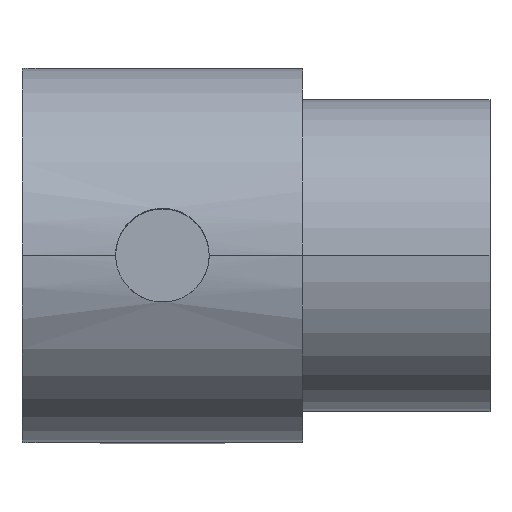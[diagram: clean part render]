
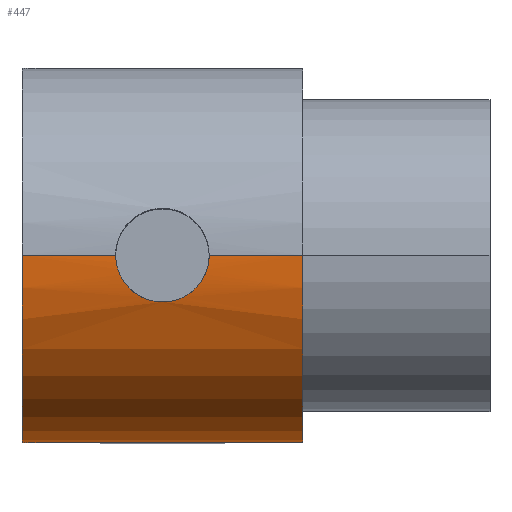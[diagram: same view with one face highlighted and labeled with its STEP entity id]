
A CAD part, top view. The second image highlights one B-rep face of the part: STEP entity #447.
In plain terms, the highlighted cylindrical face has radius 6 mm (diameter 12 mm), a partial arc.
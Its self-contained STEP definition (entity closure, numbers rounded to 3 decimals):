
#2 = AXIS2_PLACEMENT_3D ( 'NONE', #547, #47, #695 ) ;
#6 = DIRECTION ( 'NONE',  ( 0., 0., 1. ) ) ;
#19 = DIRECTION ( 'NONE',  ( 1., 0., 0. ) ) ;
#21 = CARTESIAN_POINT ( 'NONE',  ( -0.394, -1.461, 5.82 ) ) ;
#32 = CARTESIAN_POINT ( 'NONE',  ( 1.49, -0.198, 5.998 ) ) ;
#40 = VERTEX_POINT ( 'NONE', #850 ) ;
#43 = CARTESIAN_POINT ( 'NONE',  ( -0.198, -1.5, 5.809 ) ) ;
#47 = DIRECTION ( 'NONE',  ( 1., 0., 0. ) ) ;
#50 = VERTEX_POINT ( 'NONE', #365 ) ;
#62 = CARTESIAN_POINT ( 'NONE',  ( -2., -6., 0. ) ) ;
#76 = VECTOR ( 'NONE', #838, 1000. ) ;
#87 = CARTESIAN_POINT ( 'NONE',  ( 1.5, 0., 6. ) ) ;
#91 = CARTESIAN_POINT ( 'NONE',  ( 2., 0., -6. ) ) ;
#96 = CARTESIAN_POINT ( 'NONE',  ( -2., 0., -6. ) ) ;
#99 = EDGE_CURVE ( 'NONE', #827, #983, #986, .T. ) ;
#117 = VERTEX_POINT ( 'NONE', #62 ) ;
#118 = ORIENTED_EDGE ( 'NONE', *, *, #453, .F. ) ;
#129 = CYLINDRICAL_SURFACE ( 'NONE', #2, 6. ) ;
#157 = DIRECTION ( 'NONE',  ( 0., 0., -1. ) ) ;
#159 = CARTESIAN_POINT ( 'NONE',  ( -1.5, -0.196, 6. ) ) ;
#171 = EDGE_LOOP ( 'NONE', ( #118, #515, #674, #337, #890, #242, #677, #865, #605, #601 ) ) ;
#181 = CARTESIAN_POINT ( 'NONE',  ( -4.5, 0., 6. ) ) ;
#184 = CARTESIAN_POINT ( 'NONE',  ( 0.484, -1.423, 5.829 ) ) ;
#187 = CARTESIAN_POINT ( 'NONE',  ( 0.098, -1.5, 5.809 ) ) ;
#198 = EDGE_CURVE ( 'NONE', #983, #534, #323, .T. ) ;
#220 = VECTOR ( 'NONE', #593, 1000. ) ;
#221 = EDGE_CURVE ( 'NONE', #117, #331, #642, .T. ) ;
#235 = CARTESIAN_POINT ( 'NONE',  ( -0.753, -1.301, 5.858 ) ) ;
#242 = ORIENTED_EDGE ( 'NONE', *, *, #99, .T. ) ;
#247 = EDGE_CURVE ( 'NONE', #853, #1022, #882, .T. ) ;
#251 = DIRECTION ( 'NONE',  ( 0., 0., -1. ) ) ;
#318 = CARTESIAN_POINT ( 'NONE',  ( -1.13, -0.991, 5.918 ) ) ;
#323 = LINE ( 'NONE', #578, #711 ) ;
#331 = VERTEX_POINT ( 'NONE', #96 ) ;
#332 = CARTESIAN_POINT ( 'NONE',  ( 0.922, -1.199, 5.881 ) ) ;
#337 = ORIENTED_EDGE ( 'NONE', *, *, #221, .F. ) ;
#351 = CARTESIAN_POINT ( 'NONE',  ( 0.389, -1.452, 5.822 ) ) ;
#356 = CARTESIAN_POINT ( 'NONE',  ( 0.756, -1.31, 5.856 ) ) ;
#359 = CIRCLE ( 'NONE', #969, 6. ) ;
#365 = CARTESIAN_POINT ( 'NONE',  ( 4.5, 0., 6. ) ) ;
#379 = DIRECTION ( 'NONE',  ( 1., 0., 0. ) ) ;
#399 = CIRCLE ( 'NONE', #761, 6. ) ;
#403 = CARTESIAN_POINT ( 'NONE',  ( -1.301, -0.753, 5.953 ) ) ;
#406 = CARTESIAN_POINT ( 'NONE',  ( 4.5, 0., 0. ) ) ;
#413 = CARTESIAN_POINT ( 'NONE',  ( -4.5, 0., 6. ) ) ;
#425 = CARTESIAN_POINT ( 'NONE',  ( -4.5, -6., 0. ) ) ;
#431 = CARTESIAN_POINT ( 'NONE',  ( 1.198, -0.924, 5.93 ) ) ;
#447 = ADVANCED_FACE ( 'NONE', ( #448 ), #129, .T. ) ;
#448 = FACE_OUTER_BOUND ( 'NONE', #171, .T. ) ;
#453 = EDGE_CURVE ( 'NONE', #584, #853, #854, .T. ) ;
#455 = AXIS2_PLACEMENT_3D ( 'NONE', #893, #721, #6 ) ;
#460 = EDGE_CURVE ( 'NONE', #40, #331, #1010, .T. ) ;
#487 = CARTESIAN_POINT ( 'NONE',  ( -1.46, -0.394, 5.99 ) ) ;
#498 = DIRECTION ( 'NONE',  ( 1., 0., 0. ) ) ;
#511 = VECTOR ( 'NONE', #379, 1000. ) ;
#515 = ORIENTED_EDGE ( 'NONE', *, *, #664, .T. ) ;
#516 = CARTESIAN_POINT ( 'NONE',  ( 1.31, -0.757, 5.955 ) ) ;
#534 = VERTEX_POINT ( 'NONE', #942 ) ;
#547 = CARTESIAN_POINT ( 'NONE',  ( -4.5, 0., 0. ) ) ;
#578 = CARTESIAN_POINT ( 'NONE',  ( -4.5, 0., -6. ) ) ;
#584 = VERTEX_POINT ( 'NONE', #413 ) ;
#593 = DIRECTION ( 'NONE',  ( 1., 0., 0. ) ) ;
#601 = ORIENTED_EDGE ( 'NONE', *, *, #247, .F. ) ;
#605 = ORIENTED_EDGE ( 'NONE', *, *, #995, .F. ) ;
#635 = DIRECTION ( 'NONE',  ( 1., 0., 0. ) ) ;
#642 = CIRCLE ( 'NONE', #455, 6. ) ;
#646 = CARTESIAN_POINT ( 'NONE',  ( -1.5, 0., 6. ) ) ;
#647 = VECTOR ( 'NONE', #635, 1000. ) ;
#654 = CARTESIAN_POINT ( 'NONE',  ( -0.992, -1.129, 5.893 ) ) ;
#664 = EDGE_CURVE ( 'NONE', #584, #40, #359, .T. ) ;
#674 = ORIENTED_EDGE ( 'NONE', *, *, #460, .T. ) ;
#677 = ORIENTED_EDGE ( 'NONE', *, *, #198, .T. ) ;
#679 = AXIS2_PLACEMENT_3D ( 'NONE', #698, #1011, #859 ) ;
#686 = CARTESIAN_POINT ( 'NONE',  ( 1.422, -0.486, 5.981 ) ) ;
#695 = DIRECTION ( 'NONE',  ( 0., 0., -1. ) ) ;
#698 = CARTESIAN_POINT ( 'NONE',  ( 2., 0., 0. ) ) ;
#711 = VECTOR ( 'NONE', #498, 1000. ) ;
#721 = DIRECTION ( 'NONE',  ( 1., 0., 0. ) ) ;
#734 = CARTESIAN_POINT ( 'NONE',  ( -1.192, -0.916, 5.93 ) ) ;
#741 = LINE ( 'NONE', #425, #76 ) ;
#752 = LINE ( 'NONE', #181, #220 ) ;
#758 = CARTESIAN_POINT ( 'NONE',  ( 1.452, -0.391, 5.988 ) ) ;
#761 = AXIS2_PLACEMENT_3D ( 'NONE', #406, #879, #157 ) ;
#782 = CARTESIAN_POINT ( 'NONE',  ( -4.5, 0., -6. ) ) ;
#799 = EDGE_CURVE ( 'NONE', #50, #534, #399, .T. ) ;
#809 = CARTESIAN_POINT ( 'NONE',  ( -1.348, -0.665, 5.964 ) ) ;
#817 = CARTESIAN_POINT ( 'NONE',  ( 2., -6., 0. ) ) ;
#824 = CARTESIAN_POINT ( 'NONE',  ( 1.5, -0.1, 6. ) ) ;
#827 = VERTEX_POINT ( 'NONE', #817 ) ;
#838 = DIRECTION ( 'NONE',  ( 1., 0., 0. ) ) ;
#840 = CARTESIAN_POINT ( 'NONE',  ( 0.196, -1.49, 5.812 ) ) ;
#850 = CARTESIAN_POINT ( 'NONE',  ( -4.5, 0., -6. ) ) ;
#853 = VERTEX_POINT ( 'NONE', #646 ) ;
#854 = LINE ( 'NONE', #1029, #511 ) ;
#859 = DIRECTION ( 'NONE',  ( 0., 0., 1. ) ) ;
#865 = ORIENTED_EDGE ( 'NONE', *, *, #799, .F. ) ;
#879 = DIRECTION ( 'NONE',  ( 1., 0., 0. ) ) ;
#881 = CARTESIAN_POINT ( 'NONE',  ( -1.5, 0., 6. ) ) ;
#882 = B_SPLINE_CURVE_WITH_KNOTS ( 'NONE', 3,
 ( #881, #159, #487, #809, #403, #734, #318, #654, #966, #235, #992, #21, #43, #187, #840, #351, #184, #356, #332, #431, #516, #686, #758, #32, #824, #919 ),
 .UNSPECIFIED., .F., .F.,
 ( 4, 2, 2, 2, 2, 2, 2, 2, 2, 2, 2, 2, 4 ),
 ( 0.005, 0.005, 0.006, 0.006, 0.006, 0.006, 0.007, 0.007, 0.008, 0.008, 0.009, 0.009, 0.009 ),
 .UNSPECIFIED. ) ;
#890 = ORIENTED_EDGE ( 'NONE', *, *, #1028, .T. ) ;
#893 = CARTESIAN_POINT ( 'NONE',  ( -2., 0., 0. ) ) ;
#919 = CARTESIAN_POINT ( 'NONE',  ( 1.5, 0., 6. ) ) ;
#942 = CARTESIAN_POINT ( 'NONE',  ( 4.5, 0., -6. ) ) ;
#966 = CARTESIAN_POINT ( 'NONE',  ( -0.915, -1.192, 5.881 ) ) ;
#969 = AXIS2_PLACEMENT_3D ( 'NONE', #974, #19, #251 ) ;
#974 = CARTESIAN_POINT ( 'NONE',  ( -4.5, 0., 0. ) ) ;
#983 = VERTEX_POINT ( 'NONE', #91 ) ;
#986 = CIRCLE ( 'NONE', #679, 6. ) ;
#992 = CARTESIAN_POINT ( 'NONE',  ( -0.667, -1.347, 5.847 ) ) ;
#995 = EDGE_CURVE ( 'NONE', #1022, #50, #752, .T. ) ;
#1010 = LINE ( 'NONE', #782, #647 ) ;
#1011 = DIRECTION ( 'NONE',  ( 1., 0., 0. ) ) ;
#1022 = VERTEX_POINT ( 'NONE', #87 ) ;
#1028 = EDGE_CURVE ( 'NONE', #117, #827, #741, .T. ) ;
#1029 = CARTESIAN_POINT ( 'NONE',  ( -4.5, 0., 6. ) ) ;
